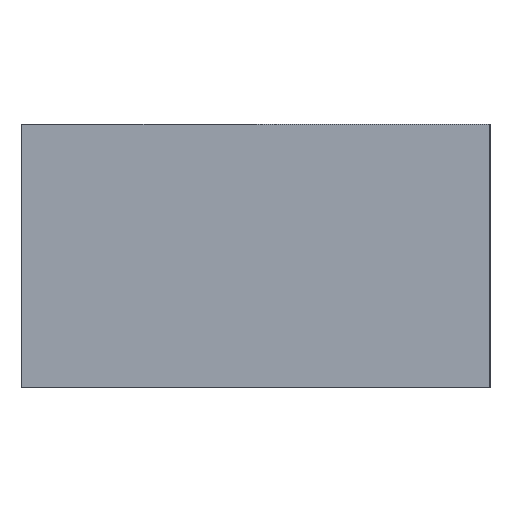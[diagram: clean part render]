
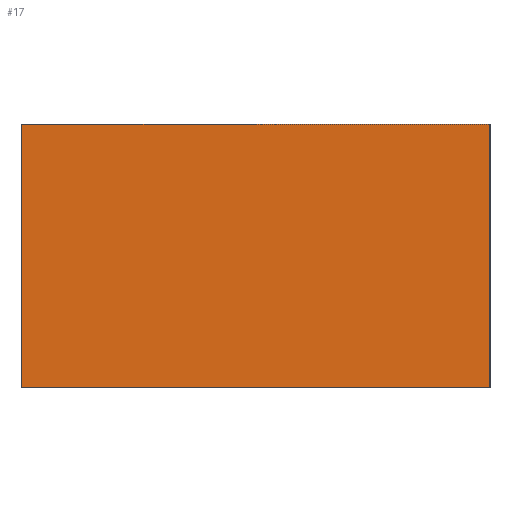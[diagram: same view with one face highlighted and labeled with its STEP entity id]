
A CAD part, left-side view. The second image highlights one B-rep face of the part: STEP entity #17.
In plain terms, the highlighted planar face has unit normal (-1, 0, 0).
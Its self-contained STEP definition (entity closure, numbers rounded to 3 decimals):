
#17 = ADVANCED_FACE('',(#18),#32,.F.);
#18 = FACE_BOUND('',#19,.F.);
#19 = EDGE_LOOP('',(#20,#55,#83,#111));
#20 = ORIENTED_EDGE('',*,*,#21,.F.);
#21 = EDGE_CURVE('',#22,#24,#26,.T.);
#22 = VERTEX_POINT('',#23);
#23 = CARTESIAN_POINT('',(-57.5,-21.425,41.07));
#24 = VERTEX_POINT('',#25);
#25 = CARTESIAN_POINT('',(-57.5,-21.425,44.93));
#26 = SURFACE_CURVE('',#27,(#31,#43),.PCURVE_S1.);
#27 = LINE('',#28,#29);
#28 = CARTESIAN_POINT('',(-57.5,-21.425,41.07));
#29 = VECTOR('',#30,1.);
#30 = DIRECTION('',(0.,0.,1.));
#31 = PCURVE('',#32,#37);
#32 = PLANE('',#33);
#33 = AXIS2_PLACEMENT_3D('',#34,#35,#36);
#34 = CARTESIAN_POINT('',(-57.5,-21.425,41.07));
#35 = DIRECTION('',(1.,0.,0.));
#36 = DIRECTION('',(0.,0.,1.));
#37 = DEFINITIONAL_REPRESENTATION('',(#38),#42);
#38 = LINE('',#39,#40);
#39 = CARTESIAN_POINT('',(0.,0.));
#40 = VECTOR('',#41,1.);
#41 = DIRECTION('',(1.,0.));
#42 = ( GEOMETRIC_REPRESENTATION_CONTEXT(2) 
PARAMETRIC_REPRESENTATION_CONTEXT() REPRESENTATION_CONTEXT('2D SPACE',''
  ) );
#43 = PCURVE('',#44,#49);
#44 = PLANE('',#45);
#45 = AXIS2_PLACEMENT_3D('',#46,#47,#48);
#46 = CARTESIAN_POINT('',(-57.5,-21.425,41.07));
#47 = DIRECTION('',(0.,1.,0.));
#48 = DIRECTION('',(0.,0.,1.));
#49 = DEFINITIONAL_REPRESENTATION('',(#50),#54);
#50 = LINE('',#51,#52);
#51 = CARTESIAN_POINT('',(0.,0.));
#52 = VECTOR('',#53,1.);
#53 = DIRECTION('',(1.,0.));
#54 = ( GEOMETRIC_REPRESENTATION_CONTEXT(2) 
PARAMETRIC_REPRESENTATION_CONTEXT() REPRESENTATION_CONTEXT('2D SPACE',''
  ) );
#55 = ORIENTED_EDGE('',*,*,#56,.T.);
#56 = EDGE_CURVE('',#22,#57,#59,.T.);
#57 = VERTEX_POINT('',#58);
#58 = CARTESIAN_POINT('',(-57.5,-14.575,41.07));
#59 = SURFACE_CURVE('',#60,(#64,#71),.PCURVE_S1.);
#60 = LINE('',#61,#62);
#61 = CARTESIAN_POINT('',(-57.5,-21.425,41.07));
#62 = VECTOR('',#63,1.);
#63 = DIRECTION('',(0.,1.,0.));
#64 = PCURVE('',#32,#65);
#65 = DEFINITIONAL_REPRESENTATION('',(#66),#70);
#66 = LINE('',#67,#68);
#67 = CARTESIAN_POINT('',(0.,0.));
#68 = VECTOR('',#69,1.);
#69 = DIRECTION('',(0.,-1.));
#70 = ( GEOMETRIC_REPRESENTATION_CONTEXT(2) 
PARAMETRIC_REPRESENTATION_CONTEXT() REPRESENTATION_CONTEXT('2D SPACE',''
  ) );
#71 = PCURVE('',#72,#77);
#72 = PLANE('',#73);
#73 = AXIS2_PLACEMENT_3D('',#74,#75,#76);
#74 = CARTESIAN_POINT('',(-57.5,-21.425,41.07));
#75 = DIRECTION('',(0.,0.,1.));
#76 = DIRECTION('',(1.,0.,0.));
#77 = DEFINITIONAL_REPRESENTATION('',(#78),#82);
#78 = LINE('',#79,#80);
#79 = CARTESIAN_POINT('',(0.,0.));
#80 = VECTOR('',#81,1.);
#81 = DIRECTION('',(0.,1.));
#82 = ( GEOMETRIC_REPRESENTATION_CONTEXT(2) 
PARAMETRIC_REPRESENTATION_CONTEXT() REPRESENTATION_CONTEXT('2D SPACE',''
  ) );
#83 = ORIENTED_EDGE('',*,*,#84,.T.);
#84 = EDGE_CURVE('',#57,#85,#87,.T.);
#85 = VERTEX_POINT('',#86);
#86 = CARTESIAN_POINT('',(-57.5,-14.575,44.93));
#87 = SURFACE_CURVE('',#88,(#92,#99),.PCURVE_S1.);
#88 = LINE('',#89,#90);
#89 = CARTESIAN_POINT('',(-57.5,-14.575,41.07));
#90 = VECTOR('',#91,1.);
#91 = DIRECTION('',(0.,0.,1.));
#92 = PCURVE('',#32,#93);
#93 = DEFINITIONAL_REPRESENTATION('',(#94),#98);
#94 = LINE('',#95,#96);
#95 = CARTESIAN_POINT('',(0.,-6.85));
#96 = VECTOR('',#97,1.);
#97 = DIRECTION('',(1.,0.));
#98 = ( GEOMETRIC_REPRESENTATION_CONTEXT(2) 
PARAMETRIC_REPRESENTATION_CONTEXT() REPRESENTATION_CONTEXT('2D SPACE',''
  ) );
#99 = PCURVE('',#100,#105);
#100 = PLANE('',#101);
#101 = AXIS2_PLACEMENT_3D('',#102,#103,#104);
#102 = CARTESIAN_POINT('',(-57.5,-14.575,41.07));
#103 = DIRECTION('',(0.,1.,0.));
#104 = DIRECTION('',(0.,0.,1.));
#105 = DEFINITIONAL_REPRESENTATION('',(#106),#110);
#106 = LINE('',#107,#108);
#107 = CARTESIAN_POINT('',(0.,0.));
#108 = VECTOR('',#109,1.);
#109 = DIRECTION('',(1.,0.));
#110 = ( GEOMETRIC_REPRESENTATION_CONTEXT(2) 
PARAMETRIC_REPRESENTATION_CONTEXT() REPRESENTATION_CONTEXT('2D SPACE',''
  ) );
#111 = ORIENTED_EDGE('',*,*,#112,.F.);
#112 = EDGE_CURVE('',#24,#85,#113,.T.);
#113 = SURFACE_CURVE('',#114,(#118,#125),.PCURVE_S1.);
#114 = LINE('',#115,#116);
#115 = CARTESIAN_POINT('',(-57.5,-21.425,44.93));
#116 = VECTOR('',#117,1.);
#117 = DIRECTION('',(0.,1.,0.));
#118 = PCURVE('',#32,#119);
#119 = DEFINITIONAL_REPRESENTATION('',(#120),#124);
#120 = LINE('',#121,#122);
#121 = CARTESIAN_POINT('',(3.86,0.));
#122 = VECTOR('',#123,1.);
#123 = DIRECTION('',(0.,-1.));
#124 = ( GEOMETRIC_REPRESENTATION_CONTEXT(2) 
PARAMETRIC_REPRESENTATION_CONTEXT() REPRESENTATION_CONTEXT('2D SPACE',''
  ) );
#125 = PCURVE('',#126,#131);
#126 = PLANE('',#127);
#127 = AXIS2_PLACEMENT_3D('',#128,#129,#130);
#128 = CARTESIAN_POINT('',(-57.5,-21.425,44.93));
#129 = DIRECTION('',(0.,0.,1.));
#130 = DIRECTION('',(1.,0.,0.));
#131 = DEFINITIONAL_REPRESENTATION('',(#132),#136);
#132 = LINE('',#133,#134);
#133 = CARTESIAN_POINT('',(0.,0.));
#134 = VECTOR('',#135,1.);
#135 = DIRECTION('',(0.,1.));
#136 = ( GEOMETRIC_REPRESENTATION_CONTEXT(2) 
PARAMETRIC_REPRESENTATION_CONTEXT() REPRESENTATION_CONTEXT('2D SPACE',''
  ) );
